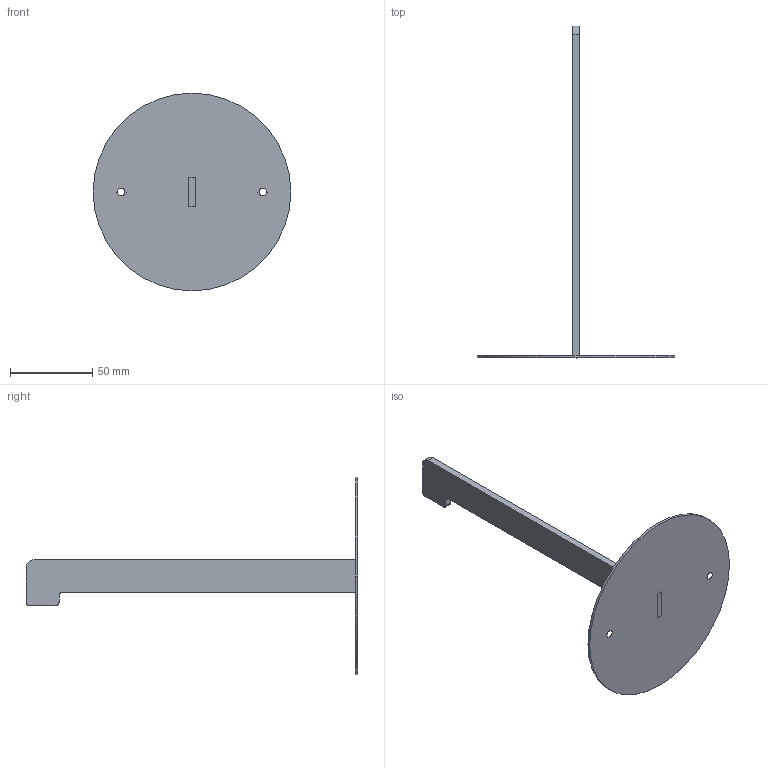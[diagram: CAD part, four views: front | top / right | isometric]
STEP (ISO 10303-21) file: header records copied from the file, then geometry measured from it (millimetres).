
FILE_DESCRIPTION((''),'2;1');
FILE_NAME('SANTORINI_WALL_BRACKET_ASM','2014-07-22T',('oftec'),(''),'PRO/ENGINEER BY PARAMETRIC TECHNOLOGY CORPORATION, 2012130','PRO/ENGINEER BY PARAMETRIC TECHNOLOGY CORPORATION, 2012130','');
FILE_SCHEMA(('CONFIG_CONTROL_DESIGN'));
Length unit declared in the file: millimetre
Products named in the file (3): 654-050; 654-051; SANTORINI_WALL_BRACKET_ASM
Assembly tree (2 placements, depth 2):
  SANTORINI_WALL_BRACKET_ASM
    654-050
    654-051
Bounding box: 120 x 201.5 x 120 mm (x, y, z)
Volume: 33473.6 mm3; surface area: 33241.9 mm2
Topology: 2 solids, 2 shells, 28 faces, 72 edges, 48 vertices
Faces by surface type: plane 18, cylinder 6, cone 4
Entity records: 956 total; most frequent: DIRECTION 158, CARTESIAN_POINT 153, ORIENTED_EDGE 144, EDGE_CURVE 72, AXIS2_PLACEMENT_3D 53, VECTOR 52, LINE 52, VERTEX_POINT 48
